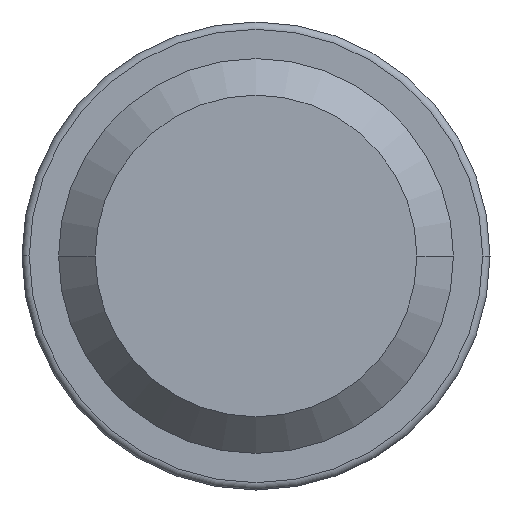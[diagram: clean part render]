
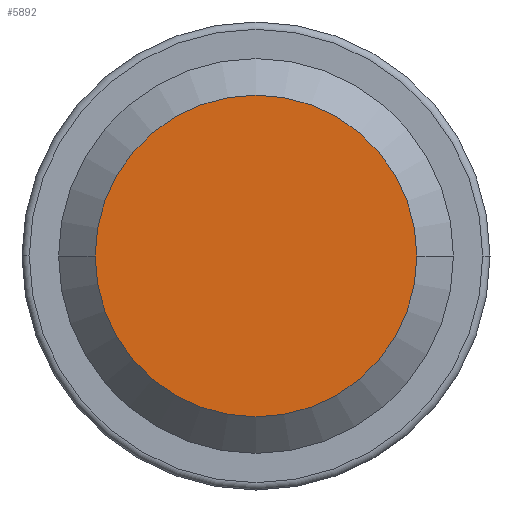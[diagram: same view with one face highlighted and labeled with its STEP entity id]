
A CAD part, front view. The second image highlights one B-rep face of the part: STEP entity #5892.
In plain terms, the highlighted planar face has unit normal (0, -1, 0).
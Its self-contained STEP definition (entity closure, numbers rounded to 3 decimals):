
#1=CARTESIAN_POINT('',(0.,0.,0.));
#2=DIRECTION('',(0.,-1.,0.));
#3=DIRECTION('',(-1.,0.,0.));
#4=AXIS2_PLACEMENT_3D('',#1,#2,#3);
#6=CARTESIAN_POINT('',(0.,0.,0.));
#7=DIRECTION('',(0.,-1.,0.));
#8=DIRECTION('',(1.,0.,0.));
#9=AXIS2_PLACEMENT_3D('',#6,#7,#8);
#4891=CARTESIAN_POINT('',(-22.,0.,0.));
#4892=CARTESIAN_POINT('',(22.,0.,0.));
#4893=VERTEX_POINT('',#4891);
#4894=VERTEX_POINT('',#4892);
#5881=CARTESIAN_POINT('',(0.,0.,0.));
#5882=DIRECTION('',(0.,1.,0.));
#5883=DIRECTION('',(1.,0.,0.));
#5884=AXIS2_PLACEMENT_3D('',#5881,#5882,#5883);
#5885=PLANE('',#5884);
#5887=ORIENTED_EDGE('',*,*,#5886,.F.);
#5889=ORIENTED_EDGE('',*,*,#5888,.F.);
#5890=EDGE_LOOP('',(#5887,#5889));
#5891=FACE_OUTER_BOUND('',#5890,.F.);
#5892=ADVANCED_FACE('',(#5891),#5885,.F.);
#5=CIRCLE('',#4,22.);
#10=CIRCLE('',#9,22.);
#5886=EDGE_CURVE('',#4893,#4894,#5,.T.);
#5888=EDGE_CURVE('',#4894,#4893,#10,.T.);
